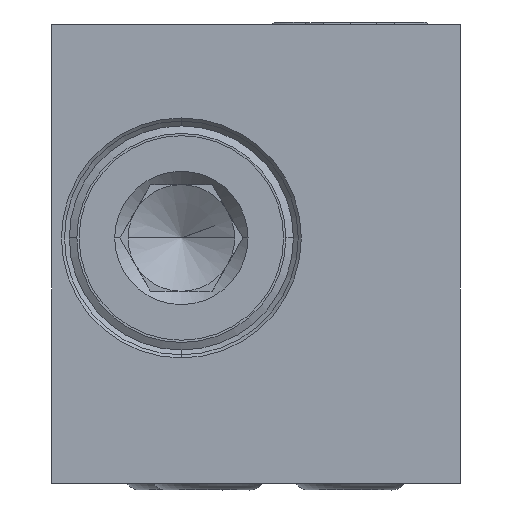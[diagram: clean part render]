
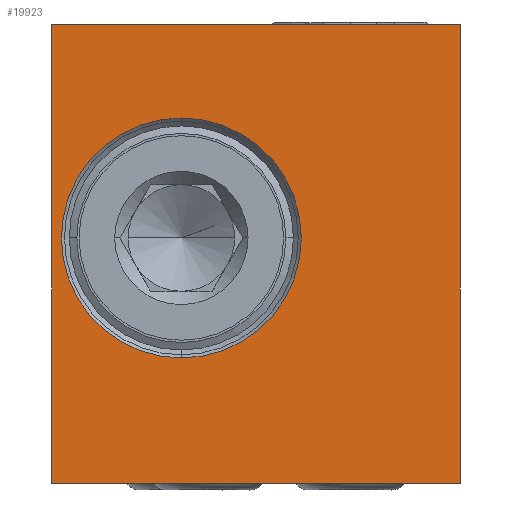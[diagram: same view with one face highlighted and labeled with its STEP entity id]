
A CAD part, left-side view. The second image highlights one B-rep face of the part: STEP entity #19923.
In plain terms, the highlighted planar face has unit normal (-1, 0, 0).
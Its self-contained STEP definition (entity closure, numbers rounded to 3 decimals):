
#3593=DIRECTION('',(0.,0.,1.));
#3594=VECTOR('',#3593,25.8);
#3595=CARTESIAN_POINT('',(-38.,11.5,-12.9));
#3596=LINE('',#3595,#3594);
#3597=DIRECTION('',(0.,-1.,0.));
#3598=VECTOR('',#3597,23.);
#3599=CARTESIAN_POINT('',(-38.,11.5,12.9));
#3600=LINE('',#3599,#3598);
#3601=DIRECTION('',(0.,0.,-1.));
#3602=VECTOR('',#3601,25.8);
#3603=CARTESIAN_POINT('',(-38.,-11.5,12.9));
#3604=LINE('',#3603,#3602);
#3605=DIRECTION('',(0.,1.,0.));
#3606=VECTOR('',#3605,23.);
#3607=CARTESIAN_POINT('',(-38.,-11.5,-12.9));
#3608=LINE('',#3607,#3606);
#3609=CARTESIAN_POINT('',(-38.,4.2,0.9));
#3610=DIRECTION('',(-1.,0.,0.));
#3611=DIRECTION('',(0.,0.,-1.));
#3612=AXIS2_PLACEMENT_3D('',#3609,#3610,#3611);
#3614=CARTESIAN_POINT('',(-38.,4.2,0.9));
#3615=DIRECTION('',(-1.,0.,0.));
#3616=DIRECTION('',(0.,0.,1.));
#3617=AXIS2_PLACEMENT_3D('',#3614,#3615,#3616);
#13687=CARTESIAN_POINT('',(-38.,11.5,12.9));
#13688=VERTEX_POINT('',#13687);
#13689=CARTESIAN_POINT('',(-38.,11.5,-12.9));
#13690=VERTEX_POINT('',#13689);
#13691=CARTESIAN_POINT('',(-38.,-11.5,12.9));
#13692=VERTEX_POINT('',#13691);
#13713=CARTESIAN_POINT('',(-38.,-11.5,-12.9));
#13714=VERTEX_POINT('',#13713);
#13759=CARTESIAN_POINT('',(-38.,4.2,-5.85));
#13760=CARTESIAN_POINT('',(-38.,4.2,7.65));
#13761=VERTEX_POINT('',#13759);
#13762=VERTEX_POINT('',#13760);
#19904=CARTESIAN_POINT('',(-38.,0.,0.));
#19905=DIRECTION('',(-1.,0.,0.));
#19906=DIRECTION('',(0.,-1.,0.));
#19907=AXIS2_PLACEMENT_3D('',#19904,#19905,#19906);
#19908=PLANE('',#19907);
#19909=ORIENTED_EDGE('',*,*,#19897,.T.);
#19910=ORIENTED_EDGE('',*,*,#17905,.T.);
#19912=ORIENTED_EDGE('',*,*,#19911,.T.);
#19914=ORIENTED_EDGE('',*,*,#19913,.T.);
#19915=EDGE_LOOP('',(#19909,#19910,#19912,#19914));
#19916=FACE_OUTER_BOUND('',#19915,.F.);
#19918=ORIENTED_EDGE('',*,*,#19917,.T.);
#19920=ORIENTED_EDGE('',*,*,#19919,.T.);
#19921=EDGE_LOOP('',(#19918,#19920));
#19922=FACE_BOUND('',#19921,.F.);
#19923=ADVANCED_FACE('',(#19916,#19922),#19908,.T.);
#3613=CIRCLE('',#3612,6.75);
#3618=CIRCLE('',#3617,6.75);
#17905=EDGE_CURVE('',#13688,#13692,#3600,.T.);
#19897=EDGE_CURVE('',#13690,#13688,#3596,.T.);
#19911=EDGE_CURVE('',#13692,#13714,#3604,.T.);
#19913=EDGE_CURVE('',#13714,#13690,#3608,.T.);
#19917=EDGE_CURVE('',#13761,#13762,#3613,.T.);
#19919=EDGE_CURVE('',#13762,#13761,#3618,.T.);
